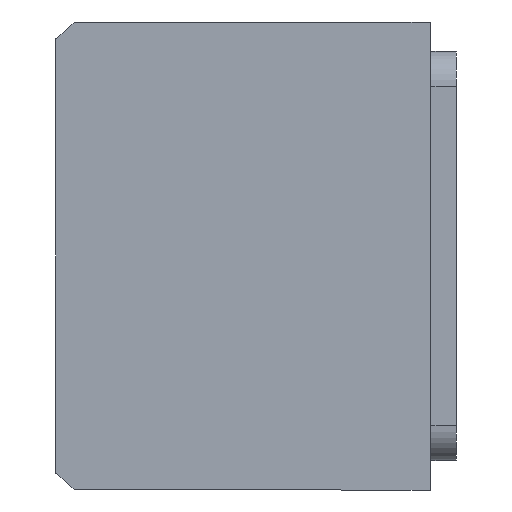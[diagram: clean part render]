
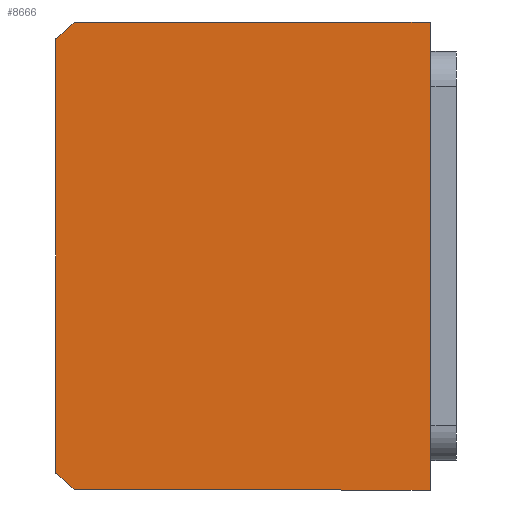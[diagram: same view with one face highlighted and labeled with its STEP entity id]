
A CAD part, front view. The second image highlights one B-rep face of the part: STEP entity #8666.
In plain terms, the highlighted planar face has unit normal (0, -1, 0) as drawn and (0, 0, -1) by its records, which use the part's own axes.
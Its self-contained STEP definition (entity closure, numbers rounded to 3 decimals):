
#238 = CARTESIAN_POINT ( 'NONE',  ( -37.094, -75.507, 0. ) ) ;
#358 = AXIS2_PLACEMENT_3D ( 'NONE', #7984, #9592, #4887 ) ;
#577 = VERTEX_POINT ( 'NONE', #238 ) ;
#732 = CARTESIAN_POINT ( 'NONE',  ( 40., -11.507, 0. ) ) ;
#945 = PLANE ( 'NONE',  #358 ) ;
#1076 = CARTESIAN_POINT ( 'NONE',  ( 37.094, -75.507, 0. ) ) ;
#1083 = VERTEX_POINT ( 'NONE', #7937 ) ;
#1537 = AXIS2_PLACEMENT_3D ( 'NONE', #7086, #2372, #7868 ) ;
#1620 = DIRECTION ( 'NONE',  ( 0., -1., 0. ) ) ;
#1732 = VECTOR ( 'NONE', #1620, 1000. ) ;
#2057 = CARTESIAN_POINT ( 'NONE',  ( 0., -40.507, 0. ) ) ;
#2168 = ORIENTED_EDGE ( 'NONE', *, *, #8602, .F. ) ;
#2321 = CARTESIAN_POINT ( 'NONE',  ( 40., -72.145, 0. ) ) ;
#2350 = ORIENTED_EDGE ( 'NONE', *, *, #7041, .F. ) ;
#2372 = DIRECTION ( 'NONE',  ( 0., 0., 1. ) ) ;
#2537 = ORIENTED_EDGE ( 'NONE', *, *, #7103, .F. ) ;
#2858 = DIRECTION ( 'NONE',  ( 1., 0., 0. ) ) ;
#3109 = CARTESIAN_POINT ( 'NONE',  ( -40., -75.507, 0. ) ) ;
#3143 = CARTESIAN_POINT ( 'NONE',  ( -40., -11.507, 0. ) ) ;
#3466 = VECTOR ( 'NONE', #4771, 1000. ) ;
#3916 = DIRECTION ( 'NONE',  ( 1., 0., 0. ) ) ;
#4557 = CIRCLE ( 'NONE', #1537, 51. ) ;
#4771 = DIRECTION ( 'NONE',  ( -1., 0., 0. ) ) ;
#4812 = LINE ( 'NONE', #3109, #8739 ) ;
#4835 = ORIENTED_EDGE ( 'NONE', *, *, #7245, .F. ) ;
#4887 = DIRECTION ( 'NONE',  ( 1., 0., 0. ) ) ;
#5045 = CARTESIAN_POINT ( 'NONE',  ( 40., -11.507, 0. ) ) ;
#5166 = EDGE_CURVE ( 'NONE', #6526, #8177, #5552, .T. ) ;
#5178 = LINE ( 'NONE', #5045, #9111 ) ;
#5552 = LINE ( 'NONE', #3143, #3466 ) ;
#6015 = ORIENTED_EDGE ( 'NONE', *, *, #7355, .F. ) ;
#6146 = LINE ( 'NONE', #9445, #1732 ) ;
#6526 = VERTEX_POINT ( 'NONE', #732 ) ;
#6784 = AXIS2_PLACEMENT_3D ( 'NONE', #2057, #7559, #2858 ) ;
#6893 = ORIENTED_EDGE ( 'NONE', *, *, #5166, .F. ) ;
#7041 = EDGE_CURVE ( 'NONE', #577, #9617, #4812, .T. ) ;
#7086 = CARTESIAN_POINT ( 'NONE',  ( 0., -40.507, 0. ) ) ;
#7103 = EDGE_CURVE ( 'NONE', #9617, #8496, #4557, .T. ) ;
#7243 = EDGE_LOOP ( 'NONE', ( #4835, #2168, #6893, #6015, #2537, #2350 ) ) ;
#7245 = EDGE_CURVE ( 'NONE', #1083, #577, #9086, .T. ) ;
#7355 = EDGE_CURVE ( 'NONE', #8496, #6526, #5178, .T. ) ;
#7559 = DIRECTION ( 'NONE',  ( 0., 0., 1. ) ) ;
#7868 = DIRECTION ( 'NONE',  ( 1., 0., 0. ) ) ;
#7937 = CARTESIAN_POINT ( 'NONE',  ( -40., -72.145, 0. ) ) ;
#7984 = CARTESIAN_POINT ( 'NONE',  ( 0., 0., 0. ) ) ;
#8177 = VERTEX_POINT ( 'NONE', #8616 ) ;
#8496 = VERTEX_POINT ( 'NONE', #2321 ) ;
#8602 = EDGE_CURVE ( 'NONE', #8177, #1083, #6146, .T. ) ;
#8616 = CARTESIAN_POINT ( 'NONE',  ( -40., -11.507, 0. ) ) ;
#8666 = ADVANCED_FACE ( 'NONE', ( #9836 ), #945, .F. ) ;
#8739 = VECTOR ( 'NONE', #3916, 1000. ) ;
#9086 = CIRCLE ( 'NONE', #6784, 51. ) ;
#9111 = VECTOR ( 'NONE', #9759, 1000. ) ;
#9445 = CARTESIAN_POINT ( 'NONE',  ( -40., -11.507, 0. ) ) ;
#9592 = DIRECTION ( 'NONE',  ( 0., 0., 1. ) ) ;
#9617 = VERTEX_POINT ( 'NONE', #1076 ) ;
#9759 = DIRECTION ( 'NONE',  ( 0., 1., 0. ) ) ;
#9836 = FACE_OUTER_BOUND ( 'NONE', #7243, .T. ) ;
